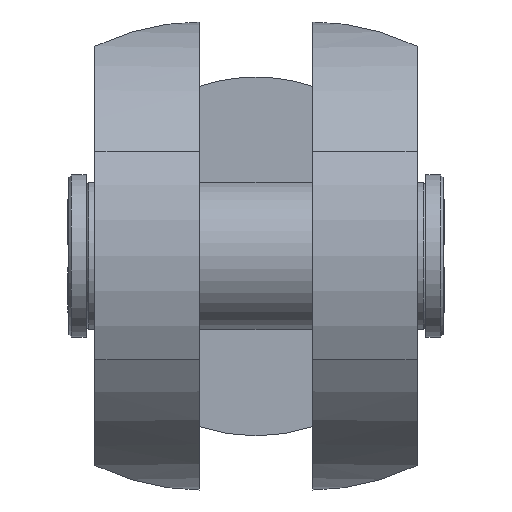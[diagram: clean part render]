
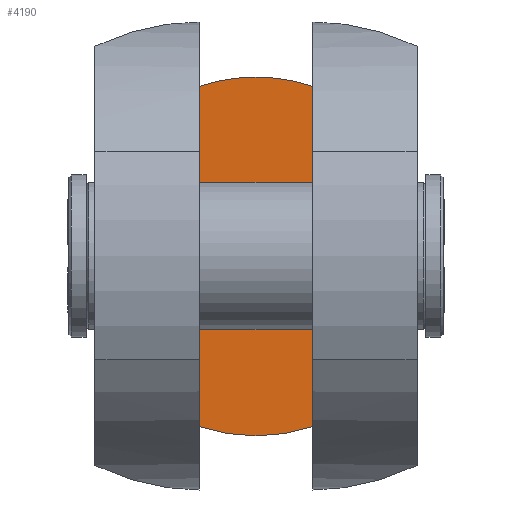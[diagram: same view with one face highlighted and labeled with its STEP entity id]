
A CAD part, top view. The second image highlights one B-rep face of the part: STEP entity #4190.
In plain terms, the highlighted planar face has unit normal (0, 0, 1).
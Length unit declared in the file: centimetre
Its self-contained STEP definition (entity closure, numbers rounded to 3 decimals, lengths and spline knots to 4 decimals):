
#406=LINE('',#6715,#790);
#407=LINE('',#6717,#791);
#790=VECTOR('',#5221,27.2587);
#791=VECTOR('',#5224,27.2587);
#959=PLANE('',#4441);
#1304=FACE_OUTER_BOUND('',#1565,.T.);
#1565=EDGE_LOOP('',(#3502,#3503,#3504,#3505));
#1713=CIRCLE('',#4296,14.3688);
#1714=CIRCLE('',#4297,14.3688);
#1791=VERTEX_POINT('',#5588);
#1792=VERTEX_POINT('',#5592);
#1797=VERTEX_POINT('',#5628);
#1798=VERTEX_POINT('',#5632);
#2168=EDGE_CURVE('',#1791,#1792,#1713,.T.);
#2174=EDGE_CURVE('',#1797,#1798,#1714,.T.);
#2569=EDGE_CURVE('',#1797,#1792,#406,.T.);
#2570=EDGE_CURVE('',#1798,#1791,#407,.T.);
#3502=ORIENTED_EDGE('',*,*,#2174,.F.);
#3503=ORIENTED_EDGE('',*,*,#2569,.T.);
#3504=ORIENTED_EDGE('',*,*,#2168,.F.);
#3505=ORIENTED_EDGE('',*,*,#2570,.F.);
#4190=ADVANCED_FACE('',(#1304),#959,.F.);
#4296=AXIS2_PLACEMENT_3D('',#5593,#4597,#4598);
#4297=AXIS2_PLACEMENT_3D('',#5633,#4599,#4600);
#4441=AXIS2_PLACEMENT_3D('',#6716,#5222,#5223);
#4597=DIRECTION('center_axis',(0.,0.,
-1.));
#4598=DIRECTION('ref_axis',(0.,1.,0.));
#4599=DIRECTION('center_axis',(0.,0.,
-1.));
#4600=DIRECTION('ref_axis',(0.,1.,0.));
#5221=DIRECTION('',(0.,-1.,0.));
#5222=DIRECTION('center_axis',(0.,0.,
-1.));
#5223=DIRECTION('ref_axis',(1.,0.,0.));
#5224=DIRECTION('',(0.,-1.,0.));
#5588=CARTESIAN_POINT('',(4.55,-13.6293,-22.2));
#5592=CARTESIAN_POINT('',(-4.55,-13.6293,-22.2));
#5593=CARTESIAN_POINT('Origin',(0.,0.,
-22.2));
#5628=CARTESIAN_POINT('',(-4.55,13.6293,-22.2));
#5632=CARTESIAN_POINT('',(4.55,13.6293,-22.2));
#5633=CARTESIAN_POINT('Origin',(0.,0.,
-22.2));
#6715=CARTESIAN_POINT('',(-4.55,0.,-22.2));
#6716=CARTESIAN_POINT('Origin',(-4.55,0.,-22.2));
#6717=CARTESIAN_POINT('',(4.55,0.,-22.2));
